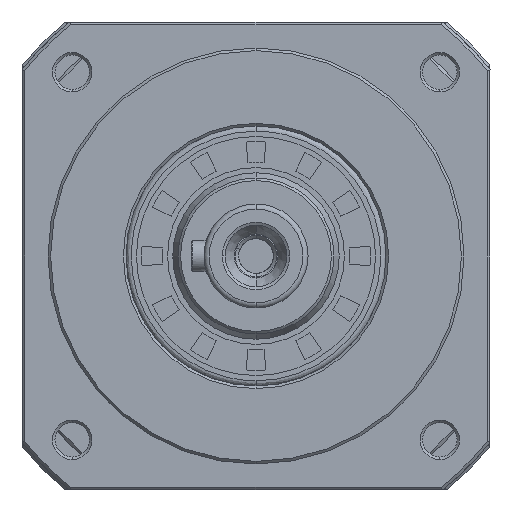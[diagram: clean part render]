
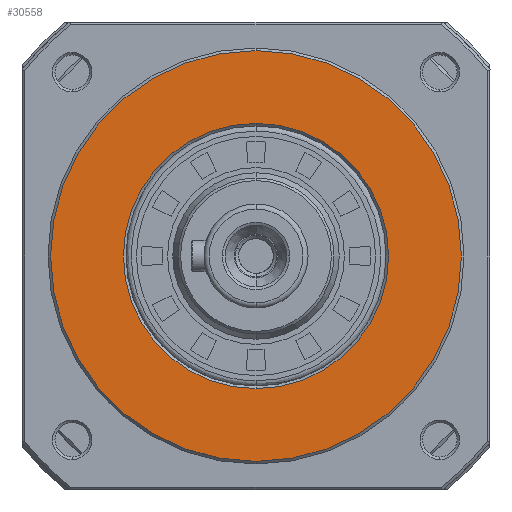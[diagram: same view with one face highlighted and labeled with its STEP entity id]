
A CAD part, left-side view. The second image highlights one B-rep face of the part: STEP entity #30558.
In plain terms, the highlighted planar face has unit normal (-1, 0, 0).
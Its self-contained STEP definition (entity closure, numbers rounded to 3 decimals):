
#2783 = ORIENTED_EDGE ( 'NONE', *, *, #8991, .T. ) ;
#5618 = EDGE_LOOP ( 'NONE', ( #17671, #9481 ) ) ;
#8991 = EDGE_CURVE ( 'NONE', #64521, #22856, #59889, .T. ) ;
#9415 = DIRECTION ( 'NONE',  ( -1., 0., 0. ) ) ;
#9481 = ORIENTED_EDGE ( 'NONE', *, *, #14091, .F. ) ;
#9599 = AXIS2_PLACEMENT_3D ( 'NONE', #64403, #9953, #49307 ) ;
#9953 = DIRECTION ( 'NONE',  ( -1., 0., 0. ) ) ;
#14091 = EDGE_CURVE ( 'NONE', #76227, #51641, #37550, .T. ) ;
#15657 = AXIS2_PLACEMENT_3D ( 'NONE', #86767, #87093, #47814 ) ;
#17671 = ORIENTED_EDGE ( 'NONE', *, *, #65437, .F. ) ;
#17875 = CIRCLE ( 'NONE', #38424, 25.5 ) ;
#22856 = VERTEX_POINT ( 'NONE', #98169 ) ;
#24407 = CIRCLE ( 'NONE', #9599, 39.5 ) ;
#25483 = PLANE ( 'NONE',  #92172 ) ;
#29061 = FACE_BOUND ( 'NONE', #5618, .T. ) ;
#29629 = CARTESIAN_POINT ( 'NONE',  ( 0., 0., 39.5 ) ) ;
#30558 = ADVANCED_FACE ( 'NONE', ( #29061, #89266 ), #25483, .F. ) ;
#37550 = CIRCLE ( 'NONE', #70637, 25.5 ) ;
#38424 = AXIS2_PLACEMENT_3D ( 'NONE', #87019, #9415, #48078 ) ;
#39296 = DIRECTION ( 'NONE',  ( 1., 0., 0. ) ) ;
#40285 = CARTESIAN_POINT ( 'NONE',  ( 0., -39.974, 39.974 ) ) ;
#44237 = EDGE_LOOP ( 'NONE', ( #66247, #2783 ) ) ;
#44780 = CARTESIAN_POINT ( 'NONE',  ( 0., 0., -25.5 ) ) ;
#47814 = DIRECTION ( 'NONE',  ( 0., 0., -1. ) ) ;
#48078 = DIRECTION ( 'NONE',  ( 0., 0., 1. ) ) ;
#49307 = DIRECTION ( 'NONE',  ( 0., 0., -1. ) ) ;
#51641 = VERTEX_POINT ( 'NONE', #58791 ) ;
#53154 = DIRECTION ( 'NONE',  ( -1., 0., 0. ) ) ;
#55148 = EDGE_CURVE ( 'NONE', #22856, #64521, #24407, .T. ) ;
#58791 = CARTESIAN_POINT ( 'NONE',  ( 0., 0., 25.5 ) ) ;
#59889 = CIRCLE ( 'NONE', #15657, 39.5 ) ;
#60584 = DIRECTION ( 'NONE',  ( 0., 0., 1. ) ) ;
#64403 = CARTESIAN_POINT ( 'NONE',  ( 0., 0., 0. ) ) ;
#64521 = VERTEX_POINT ( 'NONE', #29629 ) ;
#65437 = EDGE_CURVE ( 'NONE', #51641, #76227, #17875, .T. ) ;
#66247 = ORIENTED_EDGE ( 'NONE', *, *, #55148, .T. ) ;
#70637 = AXIS2_PLACEMENT_3D ( 'NONE', #76026, #53154, #60584 ) ;
#76026 = CARTESIAN_POINT ( 'NONE',  ( 0., 0., 0. ) ) ;
#76227 = VERTEX_POINT ( 'NONE', #44780 ) ;
#86767 = CARTESIAN_POINT ( 'NONE',  ( 0., 0., 0. ) ) ;
#87019 = CARTESIAN_POINT ( 'NONE',  ( 0., 0., 0. ) ) ;
#87093 = DIRECTION ( 'NONE',  ( -1., 0., 0. ) ) ;
#89266 = FACE_OUTER_BOUND ( 'NONE', #44237, .T. ) ;
#92172 = AXIS2_PLACEMENT_3D ( 'NONE', #40285, #39296, #94050 ) ;
#94050 = DIRECTION ( 'NONE',  ( 0., 0., -1. ) ) ;
#98169 = CARTESIAN_POINT ( 'NONE',  ( 0., 0., -39.5 ) ) ;
